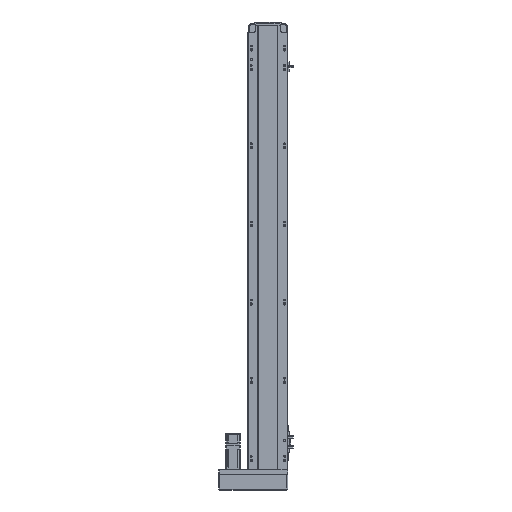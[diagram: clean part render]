
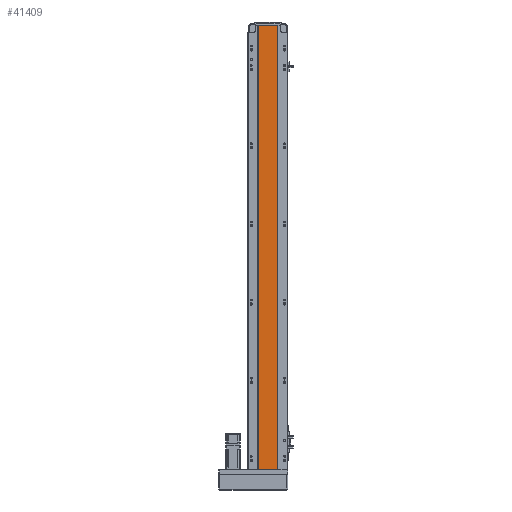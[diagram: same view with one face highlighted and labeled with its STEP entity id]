
A CAD part, front view. The second image highlights one B-rep face of the part: STEP entity #41409.
In plain terms, the highlighted planar face has unit normal (0, -1, 0).
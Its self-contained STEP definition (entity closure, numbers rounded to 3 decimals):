
#2399 = DIRECTION ( 'NONE',  ( 0., 0., -1. ) ) ;
#2448 = CARTESIAN_POINT ( 'NONE',  ( 0., 2., 0. ) ) ;
#2922 = CARTESIAN_POINT ( 'NONE',  ( -24.5, 2., 1137. ) ) ;
#3731 = EDGE_CURVE ( 'NONE', #15757, #39443, #27807, .T. ) ;
#5181 = CARTESIAN_POINT ( 'NONE',  ( -24.5, 2., 1137. ) ) ;
#5375 = DIRECTION ( 'NONE',  ( 0., 0., -1. ) ) ;
#7378 = VECTOR ( 'NONE', #2399, 1000. ) ;
#8383 = VERTEX_POINT ( 'NONE', #50455 ) ;
#9034 = EDGE_LOOP ( 'NONE', ( #33460, #37513, #59784, #24011 ) ) ;
#10753 = DIRECTION ( 'NONE',  ( 0., 0., 1. ) ) ;
#10949 = CARTESIAN_POINT ( 'NONE',  ( 0., 2., 1137. ) ) ;
#14539 = VECTOR ( 'NONE', #48465, 1000. ) ;
#15489 = VECTOR ( 'NONE', #28630, 1000. ) ;
#15757 = VERTEX_POINT ( 'NONE', #56470 ) ;
#17800 = CARTESIAN_POINT ( 'NONE',  ( -24.5, 2., 0. ) ) ;
#23793 = EDGE_CURVE ( 'NONE', #39443, #8383, #24527, .T. ) ;
#24011 = ORIENTED_EDGE ( 'NONE', *, *, #45709, .T. ) ;
#24527 = LINE ( 'NONE', #29997, #42635 ) ;
#25124 = PLANE ( 'NONE',  #25380 ) ;
#25380 = AXIS2_PLACEMENT_3D ( 'NONE', #10949, #25504, #10753 ) ;
#25504 = DIRECTION ( 'NONE',  ( 0., 1., 0. ) ) ;
#27807 = LINE ( 'NONE', #5181, #15489 ) ;
#28630 = DIRECTION ( 'NONE',  ( 1., 0., 0. ) ) ;
#29997 = CARTESIAN_POINT ( 'NONE',  ( 24.5, 2., 1137. ) ) ;
#30210 = EDGE_CURVE ( 'NONE', #42969, #8383, #36296, .T. ) ;
#33460 = ORIENTED_EDGE ( 'NONE', *, *, #30210, .T. ) ;
#36296 = LINE ( 'NONE', #2448, #14539 ) ;
#37513 = ORIENTED_EDGE ( 'NONE', *, *, #23793, .F. ) ;
#39443 = VERTEX_POINT ( 'NONE', #43174 ) ;
#41020 = FACE_OUTER_BOUND ( 'NONE', #9034, .T. ) ;
#41409 = ADVANCED_FACE ( 'NONE', ( #41020 ), #25124, .F. ) ;
#42635 = VECTOR ( 'NONE', #5375, 1000. ) ;
#42829 = LINE ( 'NONE', #2922, #7378 ) ;
#42969 = VERTEX_POINT ( 'NONE', #17800 ) ;
#43174 = CARTESIAN_POINT ( 'NONE',  ( 24.5, 2., 1137. ) ) ;
#45709 = EDGE_CURVE ( 'NONE', #15757, #42969, #42829, .T. ) ;
#48465 = DIRECTION ( 'NONE',  ( 1., 0., 0. ) ) ;
#50455 = CARTESIAN_POINT ( 'NONE',  ( 24.5, 2., 0. ) ) ;
#56470 = CARTESIAN_POINT ( 'NONE',  ( -24.5, 2., 1137. ) ) ;
#59784 = ORIENTED_EDGE ( 'NONE', *, *, #3731, .F. ) ;
